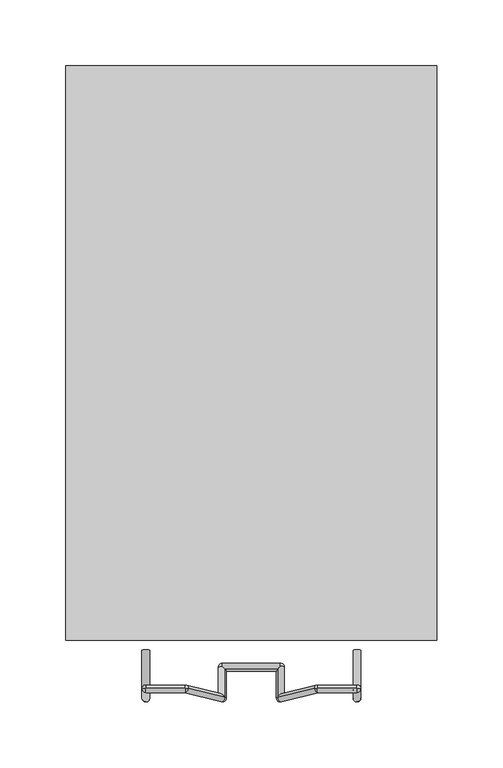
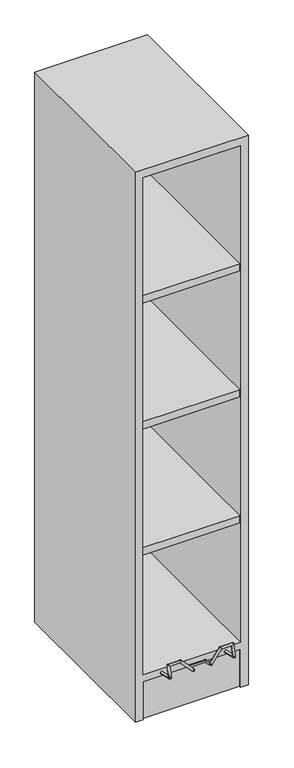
"""IFC4 building model written with IfcOpenShell, lengths in millimetres: furniture geometry, BK Library - Mag-Mag - 1440 - 1 Collum : BK Library - Mag-Mag - 1440 - 1 Collum."""

from ifc_helpers import new_model, si_unit, point, frame, origin, place, context, project, spatial, circle_curve, ellipse_curve, trimmed, faceted_brep, source, transform, mapped, element, save
from ifc_brep_helpers import plane_surface, cylinder_surface, revolved_surface, advanced_brep


def furniture_8734f36b(model_context):
    return source(origin(), model_context, "Body", "SolidModel", [
        faceted_brep([(-140.5, -217.5, 1447.4), (-140.5, -217.5, 0.0), (-121.5, -217.5, 0.0), (-121.5, -217.5, 100.0), (121.5, -217.5, 100.0), (121.5, -217.5, 0.0), (140.5, -217.5, 0.0), (140.5, -217.5, 1447.4), (121.5, -217.5, 1426.4), (121.5, -217.5, 119.0), (-121.5, -217.5, 119.0), (-121.5, -217.5, 1426.4), (-140.5, 217.5, 1447.4), (140.5, 217.5, 1447.4), (140.5, 217.5, 0.0), (-140.5, 217.5, 0.0), (121.5, -212.5, 0.0), (-121.5, -212.5, 0.0), (-121.5, -193.5, 0.0), (121.5, -193.5, 0.0), (121.5, 193.5, 0.0), (-121.5, 193.5, 0.0), (-121.5, -212.5, 100.0), (-121.5, 196.5, 119.0), (-121.5, 196.5, 431.6), (-121.5, -214.5, 431.6), (-121.5, -214.5, 450.6), (-121.5, 196.5, 450.6), (-121.5, 196.5, 763.2), (-121.5, -214.5, 763.2), (-121.5, -214.5, 782.2), (-121.5, 196.5, 782.2), (-121.5, 196.5, 1094.8), (-121.5, -214.5, 1094.8), (-121.5, -214.5, 1113.8), (-121.5, 196.5, 1113.8), (-121.5, 196.5, 1426.4), (-121.5, 193.5, 100.0), (-121.5, -193.5, 100.0), (121.5, -212.5, 100.0), (121.5, 196.5, 1426.4), (121.5, 196.5, 1113.8), (121.5, -214.5, 1113.8), (121.5, -214.5, 1094.8), (121.5, 196.5, 1094.8), (121.5, 196.5, 782.2), (121.5, -214.5, 782.2), (121.5, -214.5, 763.2), (121.5, 196.5, 763.2), (121.5, 196.5, 450.6), (121.5, -214.5, 450.6), (121.5, -214.5, 431.6), (121.5, 196.5, 431.6), (121.5, 196.5, 119.0), (121.5, -193.5, 100.0), (121.5, 193.5, 100.0)], [[[0, 1, 2, 3, 4, 5, 6, 7], [8, 9, 10, 11]], [[12, 13, 14, 15]], [[1, 0, 12, 15]], [[2, 1, 15, 14, 6, 5, 16, 17], [18, 19, 20, 21]], [[3, 2, 17, 22]], [[11, 10, 23, 24, 25, 26, 27, 28, 29, 30, 31, 32, 33, 34, 35, 36]], [[18, 21, 37, 38]], [[5, 4, 39, 16]], [[9, 8, 40, 41, 42, 43, 44, 45, 46, 47, 48, 49, 50, 51, 52, 53]], [[20, 19, 54, 55]], [[7, 6, 14, 13]], [[8, 11, 36, 40]], [[0, 7, 13, 12]], [[35, 41, 40, 36]], [[41, 35, 34, 42]], [[42, 34, 33, 43]], [[43, 33, 32, 44]], [[44, 32, 31, 45]], [[45, 31, 30, 46]], [[46, 30, 29, 47]], [[47, 29, 28, 48]], [[48, 28, 27, 49]], [[49, 27, 26, 50]], [[50, 26, 25, 51]], [[51, 25, 24, 52]], [[52, 24, 23, 53]], [[53, 23, 10, 9]], [[4, 3, 22, 39]], [[39, 22, 17, 16]], [[19, 18, 38, 54]], [[54, 38, 37, 55]], [[55, 37, 21, 20]]]),
        advanced_brep(
        [(-79.9995394, -261.9406341, 120.0660528), (-79.9995394, -264.144767, 123.6912146), (-82.9995394, -261.2301197, 122.9807002), (-82.9995394, -254.3618134, 151.1556247), (-79.9995394, -253.651299, 154.070272), (-79.9995394, -251.4471661, 150.4451102), (-50.0045138, -253.651299, 154.070272), (-47.8464944, -253.8682486, 153.1803088), (-50.0045138, -251.4471661, 150.4451102), (-21.9995394, -264.144767, 123.6912146), (-19.9155642, -261.741221, 120.8840783), (-19.84152, -260.7365549, 125.0053844), (-24.9995394, -237.9129408, 117.2965847), (-21.9995394, -234.9982934, 116.5860702), (-21.9995394, -236.3098837, 114.7607992), (-21.9995394, -238.6234552, 114.3819373), (-24.1575588, -238.4065056, 115.2719005), (22.0004606, -234.9982934, 116.5860702), (25.0004606, -237.9129408, 117.2965847), (24.15848, -238.4065056, 115.2719005), (22.0004606, -238.6234552, 114.3819373), (22.0004606, -236.3098837, 114.7607992), (19.9164855, -261.741221, 120.8840783), (22.0004606, -264.144767, 123.6912146), (19.8424412, -260.7365549, 125.0053844), (47.8474157, -253.8682486, 153.1803088), (50.0054351, -253.651299, 154.070272), (50.0054351, -251.4471661, 150.4451102), (80.0004606, -253.651299, 154.070272), (83.0004606, -254.3618134, 151.1556247), (80.0004606, -251.4471661, 150.4451102), (80.0004606, -264.144767, 123.6912146), (80.0004606, -261.9406341, 120.0660528), (83.0004606, -261.2301197, 122.9807002), (-82.9995394, -225.2828022, 114.2176888), (-76.9995394, -225.2828022, 114.2176888), (-76.9995394, -261.2301197, 122.9807002), (-76.9995394, -255.0723279, 148.2409773), (-79.9995394, -257.2764608, 151.8661391), (-51.2779383, -255.0723279, 148.2409773), (-50.0045138, -257.2764608, 151.8661391), (-24.1575588, -261.7236845, 120.956016), (-19.84152, -239.5159978, 119.8323702), (19.8424412, -239.5159978, 119.8323702), (24.15848, -261.7236845, 120.956016), (51.2788596, -255.0723279, 148.2409773), (50.0054351, -257.2764608, 151.8661391), (77.0004606, -255.0723279, 148.2409773), (80.0004606, -257.2764608, 151.8661391), (77.0004606, -261.2301197, 122.9807002), (83.0004606, -225.2828022, 114.2176888), (77.0004606, -225.2828022, 114.2176888), (22.0004606, -237.2024264, 120.211232), (-21.9995394, -237.2024264, 120.211232)],
        [
            (0, 1, circle_curve(frame((-79.9995394, -261.2301197, 122.9807002), z_axis=(-1.0, 0.0, 0.0), x_axis=(0.0, 0.23683814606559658, 0.9715491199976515)), 3.0)),
            (1, 2, circle_curve(frame((-79.9995394, -261.2301197, 122.9807002), z_axis=(0.0, -0.23683814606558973, -0.9715491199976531), x_axis=(0.0, -0.9715491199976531, 0.23683814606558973)), 3.0)),
            (2, 0, circle_curve(frame((-79.9995394, -261.2301197, 122.9807002), z_axis=(0.0, -0.9715491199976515, 0.2368381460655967), x_axis=(0.0, -0.2368381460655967, -0.9715491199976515)), 3.0)),
            (3, 4, circle_curve(frame((-79.9995394, -254.3618134, 151.1556247), z_axis=(0.0, 0.971549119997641, -0.23683814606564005), x_axis=(1.0, 0.0, 0.0)), 3.0)),
            (4, 5, circle_curve(frame((-79.9995394, -254.3618134, 151.1556247), z_axis=(-1.0, 0.0, 0.0), x_axis=(0.0, 0.23683814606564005, 0.971549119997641)), 3.0)),
            (5, 3, circle_curve(frame((-79.9995394, -254.3618134, 151.1556247), z_axis=(0.0, 0.23683814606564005, 0.971549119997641), x_axis=(-1.0, 0.0, 0.0)), 3.0)),
            (6, 7, circle_curve(frame((-50.0045138, -254.3618134, 151.1556247), z_axis=(0.0, 0.971549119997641, -0.23683814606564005), x_axis=(0.0, -0.23683814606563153, -0.971549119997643)), 3.0)),
            (7, 8, circle_curve(frame((-50.0045138, -254.3618134, 151.1556247), z_axis=(-0.6946583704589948, 0.17036710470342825, 0.6988739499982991), x_axis=(0.7193398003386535, 0.16452160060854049, 0.6748947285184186)), 3.0)),
            (8, 6, circle_curve(frame((-50.0045138, -254.3618134, 151.1556247), z_axis=(1.0, 0.0, 0.0), x_axis=(0.0, 0.23683814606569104, 0.9715491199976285)), 3.0)),
            (9, 10, circle_curve(frame((-21.9995394, -261.2301197, 122.9807002), z_axis=(0.7193398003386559, 0.16452160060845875, 0.6748947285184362), x_axis=(0.0, 0.971549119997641, -0.23683814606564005)), 3.0)),
            (10, 11, circle_curve(frame((-21.9995394, -261.2301197, 122.9807002), z_axis=(0.0, -0.9715491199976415, 0.2368381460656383), x_axis=(0.6946583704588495, -0.17036710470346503, -0.6988739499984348)), 3.0)),
            (11, 9, circle_curve(frame((-21.9995394, -261.2301197, 122.9807002), z_axis=(0.6946583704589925, -0.17036710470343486, -0.6988739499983), x_axis=(0.0, -0.9715491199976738, 0.2368381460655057)), 3.0)),
            (12, 13, circle_curve(frame((-21.9995394, -237.9129408, 117.2965847), z_axis=(0.0, -0.23683814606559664, -0.9715491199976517), x_axis=(-1.0, 0.0, 0.0)), 3.0)),
            (13, 14, circle_curve(frame((-21.9995394, -237.9129408, 117.2965847), z_axis=(-1.0, 0.0, 0.0), x_axis=(0.0, 0.9715491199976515, -0.23683814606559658)), 3.0)),
            (14, 15, circle_curve(frame((-21.9995394, -237.9129408, 117.2965847), z_axis=(-1.0, 0.0, 0.0), x_axis=(0.0, 0.9715491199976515, -0.23683814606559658)), 3.0)),
            (15, 16, circle_curve(frame((-21.9995394, -237.9129408, 117.2965847), z_axis=(0.0, 0.9715491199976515, -0.23683814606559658), x_axis=(-1.0, 0.0, 0.0)), 3.0)),
            (16, 12, circle_curve(frame((-21.9995394, -237.9129408, 117.2965847), z_axis=(0.0, 0.9715491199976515, -0.23683814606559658), x_axis=(-1.0, 0.0, 0.0)), 3.0)),
            (17, 18, circle_curve(frame((22.0004606, -237.9129408, 117.2965847), z_axis=(0.0, -0.23683814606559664, -0.9715491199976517), x_axis=(0.0, -0.971549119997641, 0.23683814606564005)), 3.0)),
            (18, 19, circle_curve(frame((22.0004606, -237.9129408, 117.2965847), z_axis=(0.0, 0.971549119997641, -0.23683814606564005), x_axis=(1.0, 0.0, 0.0)), 3.0)),
            (19, 20, circle_curve(frame((22.0004606, -237.9129408, 117.2965847), z_axis=(0.0, 0.971549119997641, -0.23683814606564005), x_axis=(1.0, 0.0, 0.0)), 3.0)),
            (20, 21, circle_curve(frame((22.0004606, -237.9129408, 117.2965847), z_axis=(1.0, 0.0, 0.0), x_axis=(0.0, 0.9715491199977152, -0.23683814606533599)), 3.0)),
            (21, 17, circle_curve(frame((22.0004606, -237.9129408, 117.2965847), z_axis=(1.0, 0.0, 0.0), x_axis=(0.0, 0.9715491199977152, -0.23683814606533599)), 3.0)),
            (22, 23, circle_curve(frame((22.0004606, -261.2301197, 122.9807002), z_axis=(-0.7193398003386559, 0.16452160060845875, 0.6748947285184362), x_axis=(-0.6946583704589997, -0.17036710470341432, -0.6988739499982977)), 3.0)),
            (23, 24, circle_curve(frame((22.0004606, -261.2301197, 122.9807002), z_axis=(-0.6946583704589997, -0.17036710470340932, -0.6988739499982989), x_axis=(0.0, -0.9715491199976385, 0.23683814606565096)), 3.0)),
            (24, 22, circle_curve(frame((22.0004606, -261.2301197, 122.9807002), z_axis=(-3.5409316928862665e-11, -0.9715491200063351, 0.23683814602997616), x_axis=(-0.6946583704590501, -0.1703671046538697, -0.6988739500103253)), 3.0)),
            (25, 26, circle_curve(frame((50.0054351, -254.3618134, 151.1556247), z_axis=(0.0, 0.971549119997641, -0.23683814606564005), x_axis=(-0.7193398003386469, 0.16452160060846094, 0.6748947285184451)), 3.0)),
            (26, 27, circle_curve(frame((50.0054351, -254.3618134, 151.1556247), z_axis=(-1.0, 0.0, 0.0), x_axis=(0.0, 0.2368381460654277, 0.9715491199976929)), 3.0)),
            (27, 25, circle_curve(frame((50.0054351, -254.3618134, 151.1556247), z_axis=(0.6946583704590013, 0.17036710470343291, 0.6988739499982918), x_axis=(-0.7193398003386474, 0.16452160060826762, 0.6748947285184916)), 3.0)),
            (28, 29, circle_curve(frame((80.0004606, -254.3618134, 151.1556247), z_axis=(0.0, 0.971549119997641, -0.23683814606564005), x_axis=(0.0, 0.23683814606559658, 0.9715491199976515)), 3.0)),
            (29, 30, circle_curve(frame((80.0004606, -254.3618134, 151.1556247), z_axis=(0.0, 0.23683814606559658, 0.9715491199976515), x_axis=(1.0, 0.0, 0.0)), 3.0)),
            (30, 28, circle_curve(frame((80.0004606, -254.3618134, 151.1556247), z_axis=(1.0, 0.0, -2.6767436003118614e-12), x_axis=(2.7551294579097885e-12, 0.23683814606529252, 0.9715491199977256)), 3.0)),
            (31, 32, circle_curve(frame((80.0004606, -261.2301197, 122.9807002), z_axis=(1.0, 0.0, 0.0), x_axis=(0.0, -0.971549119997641, 0.23683814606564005)), 3.0)),
            (32, 33, circle_curve(frame((80.0004606, -261.2301197, 122.9807002), z_axis=(0.0, -0.9715491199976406, 0.23683814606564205), x_axis=(0.0, -0.23683814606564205, -0.9715491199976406)), 3.0)),
            (33, 31, circle_curve(frame((80.0004606, -261.2301197, 122.9807002), z_axis=(0.0, -0.2368381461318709, -0.9715491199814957), x_axis=(0.0, -0.9715491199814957, 0.2368381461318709)), 3.0)),
            (2, 34),
            (34, 35, circle_curve(frame((-79.9995394, -225.2828022, 114.2176888), z_axis=(0.0, -0.9715491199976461, 0.23683814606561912), x_axis=(-1.0, 0.0, 0.0)), 3.0)),
            (35, 36),
            (36, 0, circle_curve(frame((-79.9995394, -261.2301197, 122.9807002), z_axis=(0.0, 0.9715491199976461, -0.23683814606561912), x_axis=(-1.0, 0.0, 0.0)), 3.0)),
            (3, 2),
            (1, 36, circle_curve(frame((-79.9995394, -261.2301197, 122.9807002), z_axis=(0.0, 0.23683814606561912, 0.9715491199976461), x_axis=(-1.0, 0.0, 0.0)), 3.0)),
            (36, 37),
            (37, 38, ellipse_curve(frame((-79.9995394, -254.3618134, 151.1556247), z_axis=(-0.7071067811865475, -0.1674698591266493, -0.6869889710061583), x_axis=(0.7071067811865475, -0.1674698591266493, -0.6869889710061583)), 4.2426407, 3.0)),
            (38, 3, circle_curve(frame((-79.9995394, -254.3618134, 151.1556247), z_axis=(0.0, -0.23683814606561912, -0.9715491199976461), x_axis=(-1.0, 0.0, 0.0)), 3.0)),
            (6, 4),
            (4, 38, circle_curve(frame((-79.9995394, -254.3618134, 151.1556247), z_axis=(1.0, 0.0, 0.0), x_axis=(0.0, 0.23683814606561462, 0.9715491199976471)), 3.0)),
            (37, 39),
            (39, 40, ellipse_curve(frame((-50.0045138, -254.3618134, 151.1556247), z_axis=(-0.9205048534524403, 0.09254003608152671, 0.37961448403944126), x_axis=(-0.3907311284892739, -0.21801066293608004, -0.8943156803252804)), 3.2590811, 3.0)),
            (40, 6, circle_curve(frame((-50.0045138, -254.3618134, 151.1556247), z_axis=(-1.0, 0.0, 0.0), x_axis=(0.0, 0.23683814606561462, 0.9715491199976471)), 3.0)),
            (11, 7),
            (7, 40, circle_curve(frame((-50.0045138, -254.3618134, 151.1556247), z_axis=(0.694658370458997, -0.17036710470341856, -0.6988739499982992), x_axis=(0.7193398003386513, 0.16452160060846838, 0.6748947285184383)), 3.0)),
            (39, 41),
            (41, 9, circle_curve(frame((-21.9995394, -261.2301197, 122.9807002), z_axis=(-0.694658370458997, 0.17036710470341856, 0.6988739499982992), x_axis=(0.7193398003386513, 0.16452160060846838, 0.6748947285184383)), 3.0)),
            (42, 11),
            (10, 41, circle_curve(frame((-21.9995394, -261.2301197, 122.9807002), z_axis=(0.0, 0.9715491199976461, -0.23683814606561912), x_axis=(0.719339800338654, 0.16452160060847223, 0.6748947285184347)), 3.0)),
            (41, 16),
            (15, 42, ellipse_curve(frame((-21.9995394, -237.9129408, 117.2965847), z_axis=(-0.7071067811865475, -0.6869889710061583, 0.1674698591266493), x_axis=(0.7071067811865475, -0.6869889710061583, 0.1674698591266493)), 4.2426407, 3.0)),
            (43, 42),
            (14, 21),
            (20, 43, ellipse_curve(frame((22.0004606, -237.9129408, 117.2965847), z_axis=(-0.7071067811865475, 0.6869889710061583, -0.16746985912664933), x_axis=(-0.7071067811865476, -0.6869889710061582, 0.1674698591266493)), 4.2426407, 3.0)),
            (24, 43),
            (19, 44),
            (44, 22, circle_curve(frame((22.0004606, -261.2301197, 122.9807002), z_axis=(0.0, 0.9715491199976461, -0.23683814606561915), x_axis=(-0.7193398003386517, 0.16452160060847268, 0.6748947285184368)), 3.0)),
            (25, 24),
            (23, 44, circle_curve(frame((22.0004606, -261.2301197, 122.9807002), z_axis=(0.6946583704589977, 0.17036710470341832, 0.6988739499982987), x_axis=(-0.7193398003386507, 0.16452160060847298, 0.674894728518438)), 3.0)),
            (44, 45),
            (45, 46, ellipse_curve(frame((50.0054351, -254.3618134, 151.1556247), z_axis=(-0.9205048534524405, -0.09254003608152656, -0.37961448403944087), x_axis=(0.3907311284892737, -0.21801066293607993, -0.8943156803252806)), 3.2590811, 3.0)),
            (46, 25, circle_curve(frame((50.0054351, -254.3618134, 151.1556247), z_axis=(-0.6946583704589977, -0.17036710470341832, -0.6988739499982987), x_axis=(-0.7193398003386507, 0.16452160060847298, 0.674894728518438)), 3.0)),
            (28, 26),
            (26, 46, circle_curve(frame((50.0054351, -254.3618134, 151.1556247), z_axis=(1.0, 0.0, 0.0), x_axis=(0.0, 0.236838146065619, 0.9715491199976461)), 3.0)),
            (45, 47),
            (47, 48, ellipse_curve(frame((80.0004606, -254.3618134, 151.1556247), z_axis=(-0.7071067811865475, 0.1674698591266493, 0.6869889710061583), x_axis=(-0.7071067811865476, -0.16746985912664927, -0.6869889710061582)), 4.2426407, 3.0)),
            (48, 28, circle_curve(frame((80.0004606, -254.3618134, 151.1556247), z_axis=(-1.0, 0.0, 0.0), x_axis=(0.0, 0.236838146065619, 0.9715491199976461)), 3.0)),
            (33, 29),
            (29, 48, circle_curve(frame((80.0004606, -254.3618134, 151.1556247), z_axis=(0.0, -0.23683814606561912, -0.9715491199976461), x_axis=(1.0, 0.0, 0.0)), 3.0)),
            (47, 49),
            (49, 31, circle_curve(frame((80.0004606, -261.2301197, 122.9807002), z_axis=(0.0, 0.23683814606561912, 0.9715491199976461), x_axis=(1.0, 0.0, 0.0)), 3.0)),
            (50, 33),
            (32, 49, circle_curve(frame((80.0004606, -261.2301197, 122.9807002), z_axis=(0.0, 0.9715491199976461, -0.23683814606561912), x_axis=(1.0, 0.0, 0.0)), 3.0)),
            (49, 51),
            (51, 50, circle_curve(frame((80.0004606, -225.2828022, 114.2176888), z_axis=(0.0, -0.9715491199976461, 0.23683814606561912), x_axis=(1.0, 0.0, 0.0)), 3.0)),
            (51, 50, circle_curve(frame((80.0004606, -225.2828022, 114.2176888), z_axis=(0.0, 0.9715491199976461, -0.23683814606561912), x_axis=(1.0, 0.0, 0.0)), 3.0)),
            (49, 33, ellipse_curve(frame((80.0004606, -261.2301197, 122.9807002), z_axis=(0.0, 0.5195191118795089, -0.8544588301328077), x_axis=(0.0, -0.8544588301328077, -0.5195191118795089)), 4.2426407, 3.0)),
            (47, 30, ellipse_curve(frame((80.0004606, -254.3618134, 151.1556247), z_axis=(0.7071067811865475, -0.1674698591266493, -0.6869889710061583), x_axis=(0.7071067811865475, 0.1674698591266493, 0.6869889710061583)), 4.2426407, 3.0)),
            (45, 27, ellipse_curve(frame((50.0054351, -254.3618134, 151.1556247), z_axis=(0.9205048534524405, 0.09254003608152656, 0.37961448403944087), x_axis=(-0.39073112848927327, 0.21801066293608, 0.894315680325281)), 3.2590811, 3.0)),
            (44, 24, ellipse_curve(frame((22.0004606, -261.2301197, 122.9807002), z_axis=(0.49119764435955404, -0.5665212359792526, 0.6616483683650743), x_axis=(-0.4911976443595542, -0.8074567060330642, -0.3267086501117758)), 4.2426407, 3.0)),
            (18, 52, circle_curve(frame((22.0004606, -237.9129408, 117.2965847), z_axis=(0.0, -0.9715491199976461, 0.23683814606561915), x_axis=(-0.7193398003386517, 0.16452160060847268, 0.6748947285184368)), 3.0)),
            (52, 43, ellipse_curve(frame((22.0004606, -237.9129408, 117.2965847), z_axis=(0.7071067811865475, -0.6869889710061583, 0.16746985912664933), x_axis=(0.7071067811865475, 0.6869889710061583, -0.16746985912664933)), 4.2426407, 3.0)),
            (17, 52, circle_curve(frame((22.0004606, -237.9129408, 117.2965847), z_axis=(1.0, 0.0, 0.0), x_axis=(0.0, 0.9715491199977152, -0.23683814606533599)), 3.0)),
            (13, 53, circle_curve(frame((-21.9995394, -237.9129408, 117.2965847), z_axis=(1.0, 0.0, 0.0), x_axis=(0.0, -0.534352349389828, 0.8452618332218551)), 3.0)),
            (53, 42, ellipse_curve(frame((-21.9995394, -237.9129408, 117.2965847), z_axis=(0.7071067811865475, 0.6869889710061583, -0.1674698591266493), x_axis=(-0.7071067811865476, 0.6869889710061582, -0.16746985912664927)), 4.2426407, 3.0)),
            (12, 53, circle_curve(frame((-21.9995394, -237.9129408, 117.2965847), z_axis=(0.0, 0.9715491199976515, -0.23683814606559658), x_axis=(-1.0, 0.0, 0.0)), 3.0)),
            (41, 11, ellipse_curve(frame((-21.9995394, -261.2301197, 122.9807002), z_axis=(0.49119764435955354, 0.5665212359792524, -0.6616483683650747), x_axis=(0.4911976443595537, -0.8074567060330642, -0.32670865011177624)), 4.2426407, 3.0)),
            (39, 8, ellipse_curve(frame((-50.0045138, -254.3618134, 151.1556247), z_axis=(0.9205048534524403, -0.09254003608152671, -0.37961448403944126), x_axis=(0.3907311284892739, 0.21801066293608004, 0.8943156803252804)), 3.2590811, 3.0)),
            (37, 5, ellipse_curve(frame((-79.9995394, -254.3618134, 151.1556247), z_axis=(0.7071067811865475, 0.1674698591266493, 0.6869889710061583), x_axis=(-0.7071067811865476, 0.16746985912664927, 0.6869889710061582)), 4.2426407, 3.0)),
            (36, 2, ellipse_curve(frame((-79.9995394, -261.2301197, 122.9807002), z_axis=(0.0, -0.5195191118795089, 0.8544588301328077), x_axis=(0.0, -0.8544588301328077, -0.5195191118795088)), 4.2426407, 3.0)),
            (35, 34, circle_curve(frame((-79.9995394, -225.2828022, 114.2176888), z_axis=(0.0, -0.9715491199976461, 0.23683814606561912), x_axis=(-1.0, 0.0, 0.0)), 3.0)),
        ],
        [
            revolved_surface(trimmed(ellipse_curve(frame((-79.9995394, -261.2301197, 122.9807002), z_axis=(0.0, -0.9715491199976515, 0.23683814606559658), x_axis=(0.0, 0.23683814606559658, 0.9715491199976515)), 3.0, 3.0), [point((-79.9995394, -260.5196052, 125.8953475))], [point((-82.9995394, -261.2301197, 122.9807002))], True, "CARTESIAN"), (-79.9995394, -261.2301197, 122.9807002), (-1.0, 0.0, 0.0)),
            revolved_surface(trimmed(ellipse_curve(frame((-79.9995394, -254.3618134, 151.1556247), z_axis=(0.0, 0.23683814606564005, 0.971549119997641), x_axis=(1.0, 0.0, 0.0)), 3.0, 3.0), [point((-76.9995394, -254.3618134, 151.1556247))], [point((-79.9995394, -251.4471661, 150.4451102))], True, "CARTESIAN"), (-79.9995394, -254.3618134, 151.1556247), (0.0, 0.971549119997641, -0.23683814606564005)),
            revolved_surface(trimmed(ellipse_curve(frame((-50.0045138, -254.3618134, 151.1556247), z_axis=(1.0, 0.0, 0.0), x_axis=(0.0, -0.23683814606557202, -0.9715491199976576)), 3.0, 3.0), [point((-50.0045138, -255.0723279, 148.2409773))], [point((-50.0045138, -251.4471661, 150.4451102))], True, "CARTESIAN"), (-50.0045138, -254.3618134, 151.1556247), (0.0, 0.971549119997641, -0.23683814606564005)),
            revolved_surface(trimmed(ellipse_curve(frame((-21.9995394, -261.2301197, 122.9807002), z_axis=(0.6946583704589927, -0.1703671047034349, -0.6988739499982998), x_axis=(0.0, 0.9715491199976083, -0.23683814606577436)), 3.0, 3.0), [point((-21.9995394, -258.3154723, 122.2701857))], [point((-19.84152, -260.7365549, 125.0053844))], True, "CARTESIAN"), (-21.9995394, -261.2301197, 122.9807002), (0.7193398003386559, 0.16452160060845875, 0.6748947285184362)),
            revolved_surface(trimmed(ellipse_curve(frame((-21.9995394, -237.9129408, 117.2965847), z_axis=(0.0, -0.9715491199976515, 0.23683814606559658), x_axis=(-1.0, 0.0, 0.0)), 3.0, 3.0), [point((-24.9995394, -237.9129408, 117.2965847))], [point((-21.9995394, -238.6234552, 114.3819373))], True, "CARTESIAN"), (-21.9995394, -237.9129408, 117.2965847), (0.0, -0.23683814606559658, -0.9715491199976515)),
            revolved_surface(trimmed(ellipse_curve(frame((22.0004606, -237.9129408, 117.2965847), z_axis=(1.0, 0.0, 0.0), x_axis=(0.0, -0.9715491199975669, 0.2368381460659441)), 3.0, 3.0), [point((22.0004606, -240.8275882, 118.0070991))], [point((22.0004606, -238.6234552, 114.3819373))], True, "CARTESIAN"), (22.0004606, -237.9129408, 117.2965847), (0.0, -0.23683814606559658, -0.9715491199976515)),
            revolved_surface(trimmed(ellipse_curve(frame((22.0004606, -261.2301197, 122.9807002), z_axis=(0.0, 0.9715491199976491, -0.23683814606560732), x_axis=(-0.6946583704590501, -0.17036710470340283, -0.6988739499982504)), 3.0, 3.0), [point((19.9164855, -261.741221, 120.8840783))], [point((19.8424412, -260.7365549, 125.0053844))], True, "CARTESIAN"), (22.0004606, -261.2301197, 122.9807002), (-0.7193398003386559, 0.16452160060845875, 0.6748947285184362)),
            revolved_surface(trimmed(ellipse_curve(frame((50.0054351, -254.3618134, 151.1556247), z_axis=(-0.6946583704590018, -0.17036710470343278, -0.6988739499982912), x_axis=(-0.7193398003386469, 0.16452160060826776, 0.6748947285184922)), 3.0, 3.0), [point((47.8474157, -253.8682486, 153.1803088))], [point((50.0054351, -251.4471661, 150.4451102))], True, "CARTESIAN"), (50.0054351, -254.3618134, 151.1556247), (0.0, 0.971549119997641, -0.23683814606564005)),
            revolved_surface(trimmed(ellipse_curve(frame((80.0004606, -254.3618134, 151.1556247), z_axis=(-1.0, 0.0, 0.0), x_axis=(0.0, 0.23683814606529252, 0.9715491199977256)), 3.0, 3.0), [point((80.0004606, -253.651299, 154.070272))], [point((80.0004606, -251.4471661, 150.4451102))], True, "CARTESIAN"), (80.0004606, -254.3618134, 151.1556247), (0.0, 0.971549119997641, -0.23683814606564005)),
            revolved_surface(trimmed(ellipse_curve(frame((80.0004606, -261.2301197, 122.9807002), z_axis=(0.0, 0.23683814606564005, 0.971549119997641), x_axis=(0.0, -0.971549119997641, 0.23683814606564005)), 3.0, 3.0), [point((80.0004606, -264.144767, 123.6912146))], [point((83.0004606, -261.2301197, 122.9807002))], True, "CARTESIAN"), (80.0004606, -261.2301197, 122.9807002), (1.0, 0.0, 0.0)),
            cylinder_surface(frame((-79.9995394, -225.2828022, 114.2176888), z_axis=(0.0, 0.9715491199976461, -0.23683814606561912), x_axis=(-1.0, 0.0, 0.0)), 3.0),
            cylinder_surface(frame((-79.9995394, -261.2301197, 122.9807002), z_axis=(0.0, -0.23683814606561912, -0.9715491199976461), x_axis=(-1.0, 0.0, 0.0)), 3.0),
            cylinder_surface(frame((-79.9995394, -254.3618134, 151.1556247), z_axis=(-1.0, 0.0, 0.0), x_axis=(0.0, 0.23683814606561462, 0.9715491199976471)), 3.0),
            cylinder_surface(frame((-50.0045138, -254.3618134, 151.1556247), z_axis=(-0.694658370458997, 0.17036710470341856, 0.6988739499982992), x_axis=(0.7193398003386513, 0.16452160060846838, 0.6748947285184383)), 3.0),
            cylinder_surface(frame((-21.9995394, -261.2301197, 122.9807002), z_axis=(0.0, -0.9715491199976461, 0.23683814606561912), x_axis=(0.719339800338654, 0.16452160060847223, 0.6748947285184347)), 3.0),
            cylinder_surface(frame((-21.9995394, -237.9129408, 117.2965847), z_axis=(-1.0, 0.0, 0.0), x_axis=(0.0, -0.534352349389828, 0.8452618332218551)), 3.0),
            cylinder_surface(frame((22.0004606, -237.9129408, 117.2965847), z_axis=(0.0, 0.9715491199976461, -0.23683814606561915), x_axis=(-0.7193398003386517, 0.16452160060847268, 0.6748947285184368)), 3.0),
            cylinder_surface(frame((22.0004606, -261.2301197, 122.9807002), z_axis=(-0.6946583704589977, -0.17036710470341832, -0.6988739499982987), x_axis=(-0.7193398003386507, 0.16452160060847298, 0.674894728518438)), 3.0),
            cylinder_surface(frame((50.0054351, -254.3618134, 151.1556247), z_axis=(-1.0, 0.0, 0.0), x_axis=(0.0, 0.236838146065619, 0.9715491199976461)), 3.0),
            cylinder_surface(frame((80.0004606, -254.3618134, 151.1556247), z_axis=(0.0, 0.23683814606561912, 0.9715491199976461), x_axis=(1.0, 0.0, 0.0)), 3.0),
            cylinder_surface(frame((80.0004606, -261.2301197, 122.9807002), z_axis=(0.0, -0.9715491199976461, 0.23683814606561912), x_axis=(1.0, 0.0, 0.0)), 3.0),
            plane_surface(frame((80.0004606, -225.2828022, 114.2176888), z_axis=(0.0, 0.9715491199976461, -0.23683814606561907), x_axis=(0.0, 0.23683814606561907, 0.9715491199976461))),
            revolved_surface(trimmed(ellipse_curve(frame((80.0004606, -261.2301197, 122.9807002), z_axis=(0.0, 0.23683814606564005, 0.971549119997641), x_axis=(0.0, -0.971549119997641, 0.23683814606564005)), 3.0, 3.0), [point((77.0004606, -261.2301197, 122.9807002))], [point((80.0004606, -264.144767, 123.6912146))], True, "CARTESIAN"), (80.0004606, -261.2301197, 122.9807002), (1.0, 0.0, 0.0)),
            revolved_surface(trimmed(ellipse_curve(frame((80.0004606, -254.3618134, 151.1556247), z_axis=(-1.0, 0.0, 0.0), x_axis=(0.0, 0.23683814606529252, 0.9715491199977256)), 3.0, 3.0), [point((80.0004606, -257.2764608, 151.8661391))], [point((80.0004606, -253.651299, 154.070272))], True, "CARTESIAN"), (80.0004606, -254.3618134, 151.1556247), (0.0, 0.971549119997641, -0.23683814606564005)),
            revolved_surface(trimmed(ellipse_curve(frame((50.0054351, -254.3618134, 151.1556247), z_axis=(-0.6946583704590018, -0.17036710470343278, -0.6988739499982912), x_axis=(-0.7193398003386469, 0.16452160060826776, 0.6748947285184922)), 3.0, 3.0), [point((50.0054351, -257.2764608, 151.8661391))], [point((47.8474157, -253.8682486, 153.1803088))], True, "CARTESIAN"), (50.0054351, -254.3618134, 151.1556247), (0.0, 0.971549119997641, -0.23683814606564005)),
            revolved_surface(trimmed(ellipse_curve(frame((22.0004606, -261.2301197, 122.9807002), z_axis=(0.0, 0.9715491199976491, -0.23683814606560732), x_axis=(-0.6946583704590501, -0.17036710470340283, -0.6988739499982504)), 3.0, 3.0), [point((24.15848, -261.7236845, 120.956016))], [point((19.9164855, -261.741221, 120.8840783))], True, "CARTESIAN"), (22.0004606, -261.2301197, 122.9807002), (-0.7193398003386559, 0.16452160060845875, 0.6748947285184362)),
            revolved_surface(trimmed(ellipse_curve(frame((22.0004606, -237.9129408, 117.2965847), z_axis=(1.0, 0.0, 0.0), x_axis=(0.0, -0.9715491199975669, 0.2368381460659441)), 3.0, 3.0), [point((22.0004606, -237.2024264, 120.211232))], [point((22.0004606, -240.8275882, 118.0070991))], True, "CARTESIAN"), (22.0004606, -237.9129408, 117.2965847), (0.0, -0.23683814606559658, -0.9715491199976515)),
            revolved_surface(trimmed(ellipse_curve(frame((-21.9995394, -237.9129408, 117.2965847), z_axis=(0.0, -0.9715491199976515, 0.23683814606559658), x_axis=(-1.0, 0.0, 0.0)), 3.0, 3.0), [point((-21.9995394, -237.2024264, 120.211232))], [point((-24.9995394, -237.9129408, 117.2965847))], True, "CARTESIAN"), (-21.9995394, -237.9129408, 117.2965847), (0.0, -0.23683814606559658, -0.9715491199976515)),
            revolved_surface(trimmed(ellipse_curve(frame((-21.9995394, -261.2301197, 122.9807002), z_axis=(0.6946583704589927, -0.1703671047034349, -0.6988739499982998), x_axis=(0.0, 0.9715491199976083, -0.23683814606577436)), 3.0, 3.0), [point((-24.1575588, -261.7236845, 120.956016))], [point((-21.9995394, -258.3154723, 122.2701857))], True, "CARTESIAN"), (-21.9995394, -261.2301197, 122.9807002), (0.7193398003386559, 0.16452160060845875, 0.6748947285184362)),
            revolved_surface(trimmed(ellipse_curve(frame((-50.0045138, -254.3618134, 151.1556247), z_axis=(1.0, 0.0, 0.0), x_axis=(0.0, -0.23683814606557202, -0.9715491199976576)), 3.0, 3.0), [point((-50.0045138, -257.2764608, 151.8661391))], [point((-50.0045138, -255.0723279, 148.2409773))], True, "CARTESIAN"), (-50.0045138, -254.3618134, 151.1556247), (0.0, 0.971549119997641, -0.23683814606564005)),
            revolved_surface(trimmed(ellipse_curve(frame((-79.9995394, -254.3618134, 151.1556247), z_axis=(0.0, 0.23683814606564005, 0.971549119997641), x_axis=(1.0, 0.0, 0.0)), 3.0, 3.0), [point((-79.9995394, -257.2764608, 151.8661391))], [point((-76.9995394, -254.3618134, 151.1556247))], True, "CARTESIAN"), (-79.9995394, -254.3618134, 151.1556247), (0.0, 0.971549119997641, -0.23683814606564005)),
            revolved_surface(trimmed(ellipse_curve(frame((-79.9995394, -261.2301197, 122.9807002), z_axis=(0.0, -0.9715491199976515, 0.23683814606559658), x_axis=(0.0, 0.23683814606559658, 0.9715491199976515)), 3.0, 3.0), [point((-76.9995394, -261.2301197, 122.9807002))], [point((-79.9995394, -260.5196052, 125.8953475))], True, "CARTESIAN"), (-79.9995394, -261.2301197, 122.9807002), (-1.0, 0.0, 0.0)),
            plane_surface(frame((-79.9995394, -225.2828022, 114.2176888), z_axis=(0.0, 0.9715491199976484, -0.23683814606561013), x_axis=(0.0, 0.23683814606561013, 0.9715491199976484))),
        ],
        [
            (0, [[1, 2, 3]]),
            (1, [[4, 5, 6]]),
            (2, [[7, 8, 9]]),
            (3, [[10, 11, 12]]),
            (4, [[13, 14, 15, 16, 17]]),
            (5, [[18, 19, 20, 21, 22]]),
            (6, [[23, 24, 25]]),
            (7, [[26, 27, 28]]),
            (8, [[29, 30, 31]]),
            (9, [[32, 33, 34]]),
            (10, [[35, 36, 37, 38, -3]]),
            (11, [[39, -2, 40, 41, 42, 43]]),
            (12, [[44, 45, -42, 46, 47, 48]]),
            (13, [[49, 50, -47, 51, 52, -12]]),
            (14, [[53, -11, 54, 55, -16, 56]]),
            (15, [[57, -56, -15, 58, -21, 59]]),
            (16, [[60, -59, -20, 61, 62, -25]]),
            (17, [[63, -24, 64, 65, 66, 67]]),
            (18, [[68, 69, -66, 70, 71, 72]]),
            (19, [[73, 74, -71, 75, 76, -34]]),
            (20, [[77, -33, 78, 79, 80]]),
            (21, [[-80, 81]]),
            (22, [[-32, -76, -78]]),
            (20, [[-77, -81, -79, 82]]),
            (19, [[-73, -82, -75, 83, -30]]),
            (23, [[-29, -72, -74]]),
            (18, [[-68, -31, -83, -70, 84, -27]]),
            (24, [[-26, -67, -69]]),
            (17, [[-63, -28, -84, -65, 85]]),
            (25, [[-23, -62, -64]]),
            (16, [[-60, -85, -61, -19, 86, 87]]),
            (26, [[-18, 88, -86]]),
            (15, [[-57, -87, -88, -22, -58, -14, 89, 90]]),
            (27, [[-13, 91, -89]]),
            (14, [[-53, -90, -91, -17, -55, 92]]),
            (28, [[-10, -52, -54]]),
            (13, [[-49, -92, -51, 93, -8]]),
            (29, [[-7, -48, -50]]),
            (12, [[-44, -9, -93, -46, 94, -5]]),
            (30, [[-4, -43, -45]]),
            (11, [[-39, -6, -94, -41, 95]]),
            (31, [[-1, -38, -40]]),
            (10, [[-35, -95, -37, 96]]),
            (32, [[-36, -96]]),
        ],
    ),
    ])


if __name__ == "__main__":
    model = new_model("IFC4")
    model_context = context("Model", 3, world=origin())
    ifc_project = project(units=[si_unit("LENGTHUNIT", "METRE", prefix="MILLI")], contexts=[model_context])
    site = spatial("IfcSite", under=ifc_project)
    building = spatial("IfcBuilding", under=site)
    placement = place(None, origin())
    furniture_shape = furniture_8734f36b(model_context)
    element("IfcFurniture", 1, ObjectType="BK Library - Mag-Mag - 1440 - 1 Collum : BK Library - Mag-Mag - 1440 - 1 Collum", at=placement, inside=building, context=model_context, shape_type="MappedRepresentation", body=[
        mapped(furniture_shape, transform((0.0, 0.0, 0.0), x_axis=(1.0, 0.0, 0.0), y_axis=(0.0, 1.0, 0.0), z_axis=(0.0, 0.0, 1.0))),
    ])
    save(model, "model.ifc")
